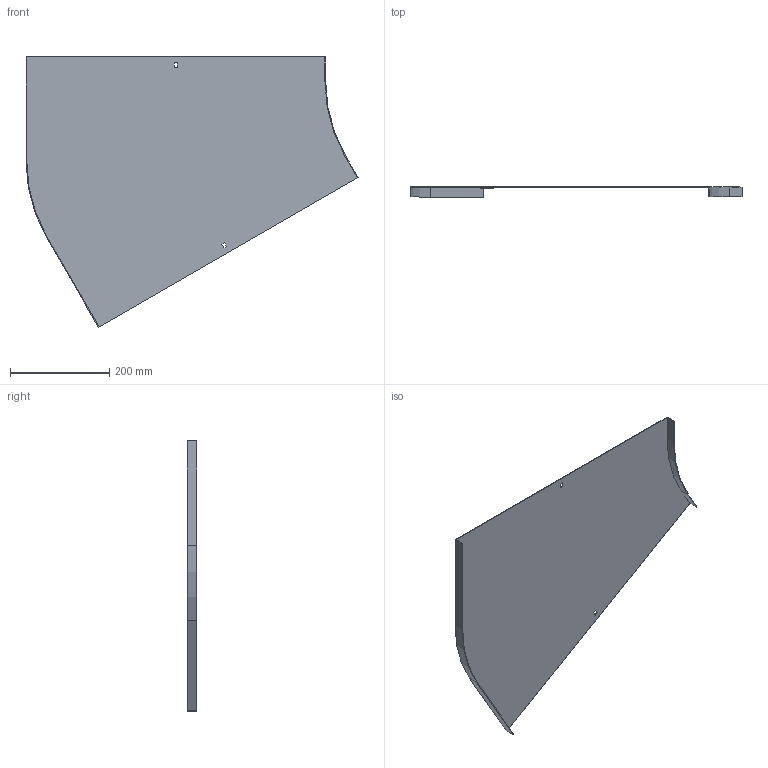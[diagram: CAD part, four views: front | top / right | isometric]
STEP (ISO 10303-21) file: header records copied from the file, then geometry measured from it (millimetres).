
FILE_DESCRIPTION (( 'STEP AP214' ), '1' );
FILE_NAME ('B2_12N3R600.step', '2025-02-21T10:49:35', ( '' ), ( '' ), 'SwSTEP 2.0', 'SolidWorks 2023', '' );
FILE_SCHEMA (( 'AUTOMOTIVE_DESIGN' ));
Length unit declared in the file: millimetre
Products named in the file (1): B2_12N3R600
Bounding box: 667.99 x 20 x 544.05 mm (x, y, z)
Volume: 404280.6 mm3; surface area: 542307.3 mm2
Topology: 1 solids, 1 shells, 26 faces, 72 edges, 48 vertices
Faces by surface type: plane 22, cylinder 4
Entity records: 855 total; most frequent: CARTESIAN_POINT 147, ORIENTED_EDGE 144, DIRECTION 134, EDGE_CURVE 72, VECTOR 64, LINE 64, VERTEX_POINT 48, AXIS2_PLACEMENT_3D 35
